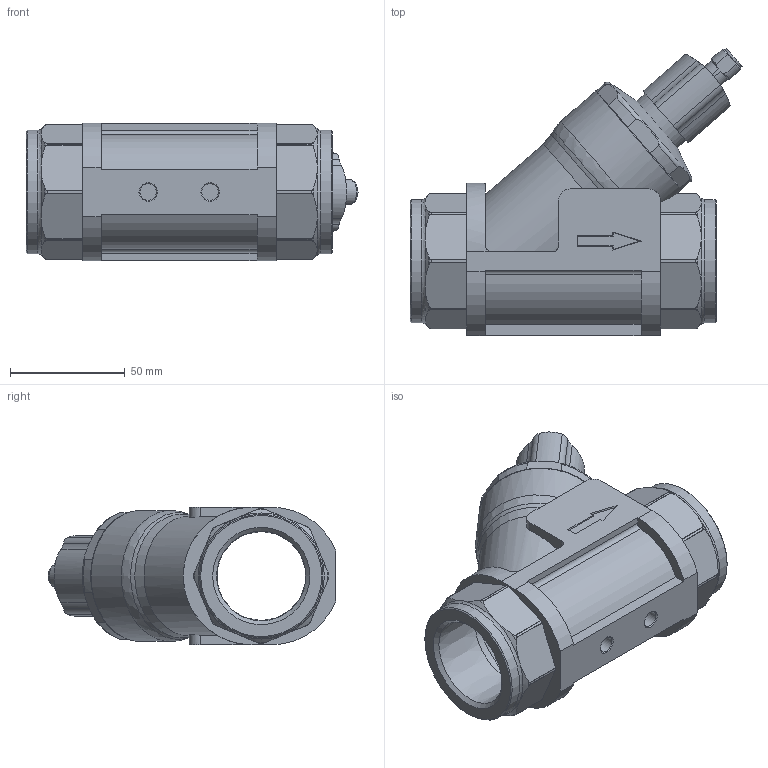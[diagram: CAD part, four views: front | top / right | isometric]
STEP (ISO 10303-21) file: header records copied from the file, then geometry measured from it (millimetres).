
FILE_DESCRIPTION(/* description */ ('STEP AP203'),/* implementation_level */ '2;1');
FILE_NAME(/* name */ 'SBG357',/* time_stamp */ '2024-03-05T13:06:25+01:00',/* author */ ('License CC BY-ND 4.0'),/* organization */ ('CADENAS'),/* preprocessor_version */ 'ST-DEVELOPER v19.3',/* originating_system */ 'PARTsolutions',/* authorisation */ ' ');
FILE_SCHEMA (('CONFIG_CONTROL_DESIGN'));
Length unit declared in the file: millimetre
Products named in the file (1): SBG357
Bounding box: 144.72 x 125.37 x 60 mm (x, y, z)
Volume: 258622.8 mm3; surface area: 67032 mm2
Topology: 1 solids, 1 shells, 257 faces, 712 edges, 470 vertices
Faces by surface type: cylinder 105, plane 95, cone 35, torus 22
Full cylindrical faces by diameter (mm): 7.188 x2, 8.3 x1, 10.5 x1, 27 x1, 38.951 x2, 45.5 x1, 53.8 x2, 57 x1
Entity records: 8407 total; most frequent: CARTESIAN_POINT 2108, ORIENTED_EDGE 1342, DIRECTION 1249, EDGE_CURVE 671, AXIS2_PLACEMENT_3D 491, VERTEX_POINT 458, EDGE_LOOP 301, FACE_BOUND 301
